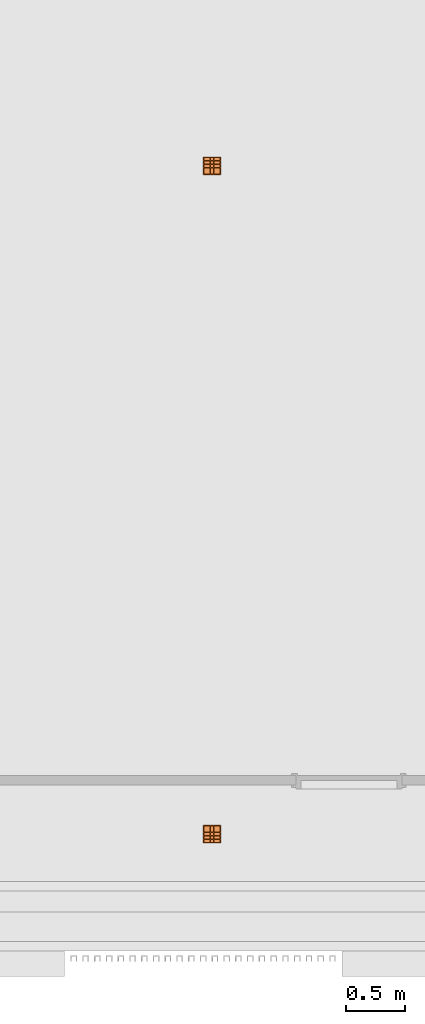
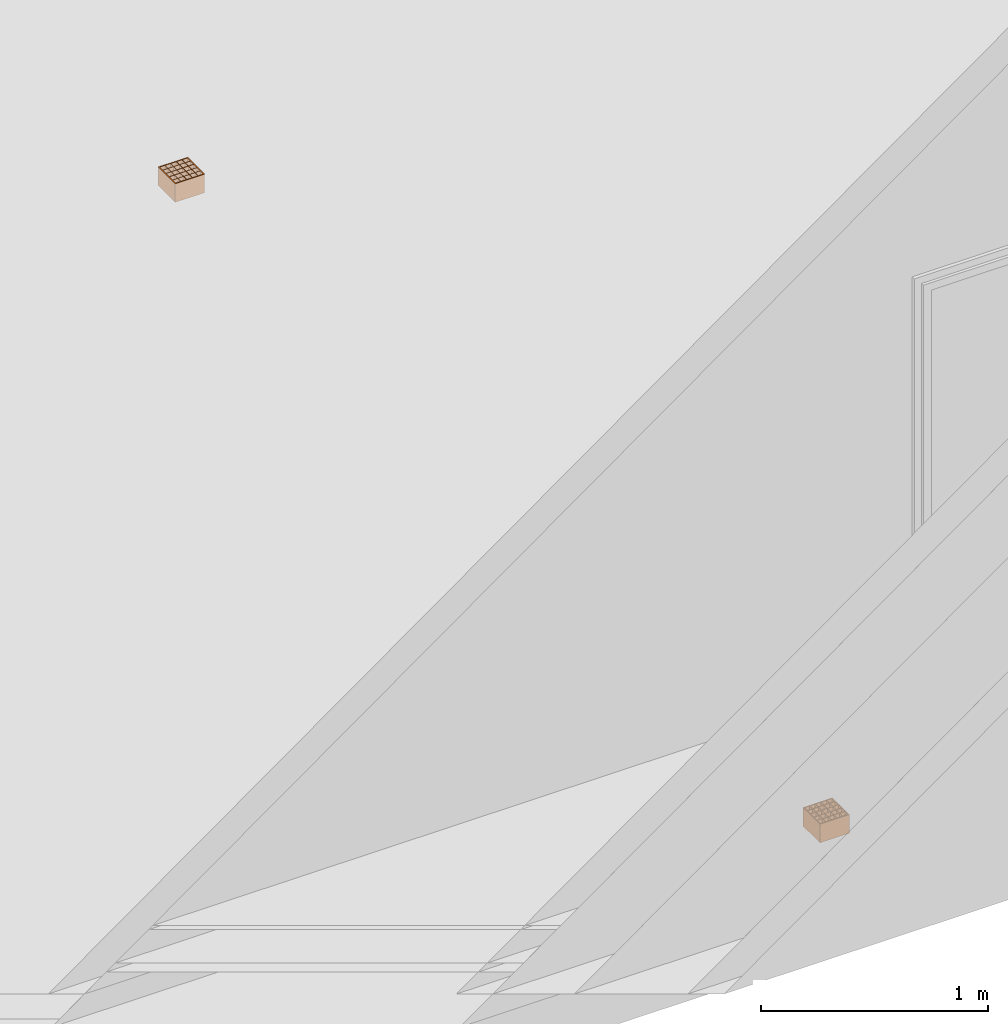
# One storey, part 81 of 100: 2 proxies.
"""IFC2X3 building model written with IfcOpenShell, lengths in millimetres."""

from ifc_helpers import new_model, entity, si_unit, converted_unit, derived_unit, money_unit, direction, frame, origin_with_axes, place, context, subcontext, project, spatial, faceted_brep, source, transform, mapped, type_object, element, save


model = new_model("IFC2X3")

# Units and contexts
model_context = context("Model", 3, precision=0.01, world=origin_with_axes(), true_north=direction((0.0, 1.0)))
body_context = subcontext(model_context, "Body", "Model", "MODEL_VIEW")
ifc_project = project(units=[si_unit("LENGTHUNIT", "METRE", prefix="MILLI"), si_unit("AREAUNIT", "SQUARE_METRE"), si_unit("VOLUMEUNIT", "CUBIC_METRE"), converted_unit("PLANEANGLEUNIT", "DEGREE", entity("IfcPlaneAngleMeasure", 0.0174532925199), si_unit("PLANEANGLEUNIT", "RADIAN"), dimensions=[0, 0, 0, 0, 0, 0, 0]), si_unit("SOLIDANGLEUNIT", "STERADIAN"), money_unit("EUR"), converted_unit("TIMEUNIT", "Year", entity("IfcTimeMeasure", 31556926.0), si_unit("TIMEUNIT", "SECOND"), dimensions=[0, 0, 1, 0, 0, 0, 0]), si_unit("MASSUNIT", "GRAM", prefix="KILO"), si_unit("THERMODYNAMICTEMPERATUREUNIT", "DEGREE_CELSIUS"), si_unit("LUMINOUSINTENSITYUNIT", "LUMEN"), si_unit("ENERGYUNIT", "JOULE", prefix="MEGA"), derived_unit("THERMALCONDUCTANCEUNIT", [(si_unit("POWERUNIT", "WATT"), 1), (si_unit("LENGTHUNIT", "METRE"), -1), (si_unit("THERMODYNAMICTEMPERATUREUNIT", "KELVIN"), -1)]), derived_unit("SPECIFICHEATCAPACITYUNIT", [(si_unit("ENERGYUNIT", "JOULE"), 1), (si_unit("MASSUNIT", "GRAM", prefix="KILO"), -1), (si_unit("THERMODYNAMICTEMPERATUREUNIT", "KELVIN"), -1)]), derived_unit("MASSDENSITYUNIT", [(si_unit("MASSUNIT", "GRAM", prefix="KILO"), 1), (si_unit("VOLUMEUNIT", "CUBIC_METRE"), -1)])], contexts=[model_context])

# Site, building, storey
site_placement = place(None, origin_with_axes())
site = spatial("IfcSite", under=ifc_project, at=site_placement, Name="Politse- ja Piirivalveameti ning Päästeameti ühishoone", CompositionType="ELEMENT")
building_placement = place(site_placement, origin_with_axes())
building = spatial("IfcBuilding", under=site, at=building_placement, Name="Politse- ja Piirivalveameti ning Päästeameti ühishoone", CompositionType="ELEMENT")
storey_placement = place(building_placement, frame((0.0, 0.0, 3800.0), z_axis=(0.0, 0.0, 1.0), x_axis=(1.0, 0.0, 0.0)))
storey = spatial("IfcBuildingStorey", under=building, at=storey_placement, Name="Teine korrus", CompositionType="ELEMENT", Elevation=3800.0)

# Proxies
building_element_proxy_type = type_object("IfcBuildingElementProxyType", Name="Grid 23", PredefinedType="NOTDEFINED")
shared_shape = source(origin_with_axes(), body_context, "Body", "Brep", [
    faceted_brep([(0.0, 0.0, 0.0), (5.0, 5.0, 0.0), (5.0, 5.0, 100.0), (0.0, 0.0, 100.0), (0.0, 150.0, 0.0), (5.0, 145.0, 0.0), (5.0, 119.5, 0.0), (5.0, 117.5, 0.0), (5.0, 90.5, 0.0), (5.0, 88.5, 0.0), (5.0, 61.5, 0.0), (5.0, 59.5, 0.0), (5.0, 32.5, 0.0), (5.0, 30.5, 0.0), (5.0, 30.5, 100.0), (5.0, 32.5, 100.0), (5.0, 59.5, 100.0), (5.0, 61.5, 100.0), (5.0, 88.5, 100.0), (5.0, 90.5, 100.0), (5.0, 117.5, 100.0), (5.0, 119.5, 100.0), (5.0, 145.0, 100.0), (0.0, 150.0, 100.0)], [[[0, 1, 2, 3]], [[0, 4, 5, 6, 7, 8, 9, 10, 11, 12, 13, 1]], [[1, 13, 14, 2]], [[3, 2, 14, 15, 16, 17, 18, 19, 20, 21, 22, 23]], [[4, 0, 3, 23]], [[5, 4, 23, 22]], [[6, 5, 22, 21]], [[7, 6, 21, 20]], [[8, 7, 20, 19]], [[9, 8, 19, 18]], [[10, 9, 18, 17]], [[11, 10, 17, 16]], [[12, 11, 16, 15]], [[13, 12, 15, 14]]]),
    faceted_brep([(150.0, 150.0, 0.0), (145.0, 145.0, 0.0), (145.0, 145.0, 100.0), (150.0, 150.0, 100.0), (150.0, 0.0, 0.0), (145.0, 5.0, 0.0), (145.0, 30.5, 0.0), (145.0, 32.5, 0.0), (145.0, 59.5, 0.0), (145.0, 61.5, 0.0), (145.0, 88.5, 0.0), (145.0, 90.5, 0.0), (145.0, 117.5, 0.0), (145.0, 119.5, 0.0), (145.0, 119.5, 100.0), (145.0, 117.5, 100.0), (145.0, 90.5, 100.0), (145.0, 88.5, 100.0), (145.0, 61.5, 100.0), (145.0, 59.5, 100.0), (145.0, 32.5, 100.0), (145.0, 30.5, 100.0), (145.0, 5.0, 100.0), (150.0, 0.0, 100.0)], [[[0, 1, 2, 3]], [[0, 4, 5, 6, 7, 8, 9, 10, 11, 12, 13, 1]], [[1, 13, 14, 2]], [[3, 2, 14, 15, 16, 17, 18, 19, 20, 21, 22, 23]], [[4, 0, 3, 23]], [[5, 4, 23, 22]], [[6, 5, 22, 21]], [[7, 6, 21, 20]], [[8, 7, 20, 19]], [[9, 8, 19, 18]], [[10, 9, 18, 17]], [[11, 10, 17, 16]], [[12, 11, 16, 15]], [[13, 12, 15, 14]]]),
    faceted_brep([(150.0, 0.0, 0.0), (145.0, 5.0, 0.0), (145.0, 5.0, 100.0), (150.0, 0.0, 100.0), (0.0, 0.0, 0.0), (5.0, 5.0, 0.0), (30.5, 5.0, 0.0), (32.5, 5.0, 0.0), (59.5, 5.0, 0.0), (61.5, 5.0, 0.0), (88.5, 5.0, 0.0), (90.5, 5.0, 0.0), (117.5, 5.0, 0.0), (119.5, 5.0, 0.0), (119.5, 5.0, 100.0), (117.5, 5.0, 100.0), (90.5, 5.0, 100.0), (88.5, 5.0, 100.0), (61.5, 5.0, 100.0), (59.5, 5.0, 100.0), (32.5, 5.0, 100.0), (30.5, 5.0, 100.0), (5.0, 5.0, 100.0), (0.0, 0.0, 100.0)], [[[0, 1, 2, 3]], [[0, 4, 5, 6, 7, 8, 9, 10, 11, 12, 13, 1]], [[1, 13, 14, 2]], [[3, 2, 14, 15, 16, 17, 18, 19, 20, 21, 22, 23]], [[4, 0, 3, 23]], [[5, 4, 23, 22]], [[6, 5, 22, 21]], [[7, 6, 21, 20]], [[8, 7, 20, 19]], [[9, 8, 19, 18]], [[10, 9, 18, 17]], [[11, 10, 17, 16]], [[12, 11, 16, 15]], [[13, 12, 15, 14]]]),
    faceted_brep([(0.0, 150.0, 0.0), (5.0, 145.0, 0.0), (5.0, 145.0, 100.0), (0.0, 150.0, 100.0), (150.0, 150.0, 0.0), (145.0, 145.0, 0.0), (119.5, 145.0, 0.0), (117.5, 145.0, 0.0), (90.5, 145.0, 0.0), (88.5, 145.0, 0.0), (61.5, 145.0, 0.0), (59.5, 145.0, 0.0), (32.5, 145.0, 0.0), (30.5, 145.0, 0.0), (30.5, 145.0, 100.0), (32.5, 145.0, 100.0), (59.5, 145.0, 100.0), (61.5, 145.0, 100.0), (88.5, 145.0, 100.0), (90.5, 145.0, 100.0), (117.5, 145.0, 100.0), (119.5, 145.0, 100.0), (145.0, 145.0, 100.0), (150.0, 150.0, 100.0)], [[[0, 1, 2, 3]], [[0, 4, 5, 6, 7, 8, 9, 10, 11, 12, 13, 1]], [[1, 13, 14, 2]], [[3, 2, 14, 15, 16, 17, 18, 19, 20, 21, 22, 23]], [[4, 0, 3, 23]], [[5, 4, 23, 22]], [[6, 5, 22, 21]], [[7, 6, 21, 20]], [[8, 7, 20, 19]], [[9, 8, 19, 18]], [[10, 9, 18, 17]], [[11, 10, 17, 16]], [[12, 11, 16, 15]], [[13, 12, 15, 14]]]),
    faceted_brep([(30.5, 5.0, 0.0), (32.5, 5.0, 0.0), (32.5, 5.0, 100.0), (30.5, 5.0, 100.0), (30.5, 30.5, 0.0), (30.5, 32.5, 0.0), (30.5, 59.5, 0.0), (30.5, 61.5, 0.0), (30.5, 88.5, 0.0), (30.5, 90.5, 0.0), (30.5, 117.5, 0.0), (30.5, 119.5, 0.0), (30.5, 145.0, 0.0), (32.5, 145.0, 0.0), (32.5, 119.5, 0.0), (32.5, 117.5, 0.0), (32.5, 90.5, 0.0), (32.5, 88.5, 0.0), (32.5, 61.5, 0.0), (32.5, 59.5, 0.0), (32.5, 32.5, 0.0), (32.5, 30.5, 0.0), (32.5, 30.5, 100.0), (32.5, 32.5, 100.0), (32.5, 59.5, 100.0), (32.5, 61.5, 100.0), (32.5, 88.5, 100.0), (32.5, 90.5, 100.0), (32.5, 117.5, 100.0), (32.5, 119.5, 100.0), (32.5, 145.0, 100.0), (30.5, 145.0, 100.0), (30.5, 119.5, 100.0), (30.5, 117.5, 100.0), (30.5, 90.5, 100.0), (30.5, 88.5, 100.0), (30.5, 61.5, 100.0), (30.5, 59.5, 100.0), (30.5, 32.5, 100.0), (30.5, 30.5, 100.0)], [[[0, 1, 2, 3]], [[0, 4, 5, 6, 7, 8, 9, 10, 11, 12, 13, 14, 15, 16, 17, 18, 19, 20, 21, 1]], [[1, 21, 22, 2]], [[3, 2, 22, 23, 24, 25, 26, 27, 28, 29, 30, 31, 32, 33, 34, 35, 36, 37, 38, 39]], [[4, 0, 3, 39]], [[5, 4, 39, 38]], [[6, 5, 38, 37]], [[7, 6, 37, 36]], [[8, 7, 36, 35]], [[9, 8, 35, 34]], [[10, 9, 34, 33]], [[11, 10, 33, 32]], [[12, 11, 32, 31]], [[13, 12, 31, 30]], [[14, 13, 30, 29]], [[15, 14, 29, 28]], [[16, 15, 28, 27]], [[17, 16, 27, 26]], [[18, 17, 26, 25]], [[19, 18, 25, 24]], [[20, 19, 24, 23]], [[21, 20, 23, 22]]]),
    faceted_brep([(59.5, 5.0, 0.0), (61.5, 5.0, 0.0), (61.5, 5.0, 100.0), (59.5, 5.0, 100.0), (59.5, 30.5, 0.0), (59.5, 32.5, 0.0), (59.5, 59.5, 0.0), (59.5, 61.5, 0.0), (59.5, 88.5, 0.0), (59.5, 90.5, 0.0), (59.5, 117.5, 0.0), (59.5, 119.5, 0.0), (59.5, 145.0, 0.0), (61.5, 145.0, 0.0), (61.5, 119.5, 0.0), (61.5, 117.5, 0.0), (61.5, 90.5, 0.0), (61.5, 88.5, 0.0), (61.5, 61.5, 0.0), (61.5, 59.5, 0.0), (61.5, 32.5, 0.0), (61.5, 30.5, 0.0), (61.5, 30.5, 100.0), (61.5, 32.5, 100.0), (61.5, 59.5, 100.0), (61.5, 61.5, 100.0), (61.5, 88.5, 100.0), (61.5, 90.5, 100.0), (61.5, 117.5, 100.0), (61.5, 119.5, 100.0), (61.5, 145.0, 100.0), (59.5, 145.0, 100.0), (59.5, 119.5, 100.0), (59.5, 117.5, 100.0), (59.5, 90.5, 100.0), (59.5, 88.5, 100.0), (59.5, 61.5, 100.0), (59.5, 59.5, 100.0), (59.5, 32.5, 100.0), (59.5, 30.5, 100.0)], [[[0, 1, 2, 3]], [[0, 4, 5, 6, 7, 8, 9, 10, 11, 12, 13, 14, 15, 16, 17, 18, 19, 20, 21, 1]], [[1, 21, 22, 2]], [[3, 2, 22, 23, 24, 25, 26, 27, 28, 29, 30, 31, 32, 33, 34, 35, 36, 37, 38, 39]], [[4, 0, 3, 39]], [[5, 4, 39, 38]], [[6, 5, 38, 37]], [[7, 6, 37, 36]], [[8, 7, 36, 35]], [[9, 8, 35, 34]], [[10, 9, 34, 33]], [[11, 10, 33, 32]], [[12, 11, 32, 31]], [[13, 12, 31, 30]], [[14, 13, 30, 29]], [[15, 14, 29, 28]], [[16, 15, 28, 27]], [[17, 16, 27, 26]], [[18, 17, 26, 25]], [[19, 18, 25, 24]], [[20, 19, 24, 23]], [[21, 20, 23, 22]]]),
    faceted_brep([(88.5, 5.0, 0.0), (90.5, 5.0, 0.0), (90.5, 5.0, 100.0), (88.5, 5.0, 100.0), (88.5, 30.5, 0.0), (88.5, 32.5, 0.0), (88.5, 59.5, 0.0), (88.5, 61.5, 0.0), (88.5, 88.5, 0.0), (88.5, 90.5, 0.0), (88.5, 117.5, 0.0), (88.5, 119.5, 0.0), (88.5, 145.0, 0.0), (90.5, 145.0, 0.0), (90.5, 119.5, 0.0), (90.5, 117.5, 0.0), (90.5, 90.5, 0.0), (90.5, 88.5, 0.0), (90.5, 61.5, 0.0), (90.5, 59.5, 0.0), (90.5, 32.5, 0.0), (90.5, 30.5, 0.0), (90.5, 30.5, 100.0), (90.5, 32.5, 100.0), (90.5, 59.5, 100.0), (90.5, 61.5, 100.0), (90.5, 88.5, 100.0), (90.5, 90.5, 100.0), (90.5, 117.5, 100.0), (90.5, 119.5, 100.0), (90.5, 145.0, 100.0), (88.5, 145.0, 100.0), (88.5, 119.5, 100.0), (88.5, 117.5, 100.0), (88.5, 90.5, 100.0), (88.5, 88.5, 100.0), (88.5, 61.5, 100.0), (88.5, 59.5, 100.0), (88.5, 32.5, 100.0), (88.5, 30.5, 100.0)], [[[0, 1, 2, 3]], [[0, 4, 5, 6, 7, 8, 9, 10, 11, 12, 13, 14, 15, 16, 17, 18, 19, 20, 21, 1]], [[1, 21, 22, 2]], [[3, 2, 22, 23, 24, 25, 26, 27, 28, 29, 30, 31, 32, 33, 34, 35, 36, 37, 38, 39]], [[4, 0, 3, 39]], [[5, 4, 39, 38]], [[6, 5, 38, 37]], [[7, 6, 37, 36]], [[8, 7, 36, 35]], [[9, 8, 35, 34]], [[10, 9, 34, 33]], [[11, 10, 33, 32]], [[12, 11, 32, 31]], [[13, 12, 31, 30]], [[14, 13, 30, 29]], [[15, 14, 29, 28]], [[16, 15, 28, 27]], [[17, 16, 27, 26]], [[18, 17, 26, 25]], [[19, 18, 25, 24]], [[20, 19, 24, 23]], [[21, 20, 23, 22]]]),
    faceted_brep([(117.5, 5.0, 0.0), (119.5, 5.0, 0.0), (119.5, 5.0, 100.0), (117.5, 5.0, 100.0), (117.5, 30.5, 0.0), (117.5, 32.5, 0.0), (117.5, 59.5, 0.0), (117.5, 61.5, 0.0), (117.5, 88.5, 0.0), (117.5, 90.5, 0.0), (117.5, 117.5, 0.0), (117.5, 119.5, 0.0), (117.5, 145.0, 0.0), (119.5, 145.0, 0.0), (119.5, 119.5, 0.0), (119.5, 117.5, 0.0), (119.5, 90.5, 0.0), (119.5, 88.5, 0.0), (119.5, 61.5, 0.0), (119.5, 59.5, 0.0), (119.5, 32.5, 0.0), (119.5, 30.5, 0.0), (119.5, 30.5, 100.0), (119.5, 32.5, 100.0), (119.5, 59.5, 100.0), (119.5, 61.5, 100.0), (119.5, 88.5, 100.0), (119.5, 90.5, 100.0), (119.5, 117.5, 100.0), (119.5, 119.5, 100.0), (119.5, 145.0, 100.0), (117.5, 145.0, 100.0), (117.5, 119.5, 100.0), (117.5, 117.5, 100.0), (117.5, 90.5, 100.0), (117.5, 88.5, 100.0), (117.5, 61.5, 100.0), (117.5, 59.5, 100.0), (117.5, 32.5, 100.0), (117.5, 30.5, 100.0)], [[[0, 1, 2, 3]], [[0, 4, 5, 6, 7, 8, 9, 10, 11, 12, 13, 14, 15, 16, 17, 18, 19, 20, 21, 1]], [[1, 21, 22, 2]], [[3, 2, 22, 23, 24, 25, 26, 27, 28, 29, 30, 31, 32, 33, 34, 35, 36, 37, 38, 39]], [[4, 0, 3, 39]], [[5, 4, 39, 38]], [[6, 5, 38, 37]], [[7, 6, 37, 36]], [[8, 7, 36, 35]], [[9, 8, 35, 34]], [[10, 9, 34, 33]], [[11, 10, 33, 32]], [[12, 11, 32, 31]], [[13, 12, 31, 30]], [[14, 13, 30, 29]], [[15, 14, 29, 28]], [[16, 15, 28, 27]], [[17, 16, 27, 26]], [[18, 17, 26, 25]], [[19, 18, 25, 24]], [[20, 19, 24, 23]], [[21, 20, 23, 22]]]),
    faceted_brep([(30.5, 30.5, 0.0), (30.5, 32.5, 0.0), (30.5, 32.5, 100.0), (30.5, 30.5, 100.0), (5.0, 30.5, 0.0), (5.0, 32.5, 0.0), (5.0, 32.5, 100.0), (5.0, 30.5, 100.0)], [[[0, 1, 2, 3]], [[0, 4, 5, 1]], [[1, 5, 6, 2]], [[3, 2, 6, 7]], [[4, 0, 3, 7]], [[5, 4, 7, 6]]]),
    faceted_brep([(30.5, 59.5, 0.0), (30.5, 61.5, 0.0), (30.5, 61.5, 100.0), (30.5, 59.5, 100.0), (5.0, 59.5, 0.0), (5.0, 61.5, 0.0), (5.0, 61.5, 100.0), (5.0, 59.5, 100.0)], [[[0, 1, 2, 3]], [[0, 4, 5, 1]], [[1, 5, 6, 2]], [[3, 2, 6, 7]], [[4, 0, 3, 7]], [[5, 4, 7, 6]]]),
    faceted_brep([(30.5, 88.5, 0.0), (30.5, 90.5, 0.0), (30.5, 90.5, 100.0), (30.5, 88.5, 100.0), (5.0, 88.5, 0.0), (5.0, 90.5, 0.0), (5.0, 90.5, 100.0), (5.0, 88.5, 100.0)], [[[0, 1, 2, 3]], [[0, 4, 5, 1]], [[1, 5, 6, 2]], [[3, 2, 6, 7]], [[4, 0, 3, 7]], [[5, 4, 7, 6]]]),
    faceted_brep([(30.5, 117.5, 0.0), (30.5, 119.5, 0.0), (30.5, 119.5, 100.0), (30.5, 117.5, 100.0), (5.0, 117.5, 0.0), (5.0, 119.5, 0.0), (5.0, 119.5, 100.0), (5.0, 117.5, 100.0)], [[[0, 1, 2, 3]], [[0, 4, 5, 1]], [[1, 5, 6, 2]], [[3, 2, 6, 7]], [[4, 0, 3, 7]], [[5, 4, 7, 6]]]),
    faceted_brep([(59.5, 30.5, 0.0), (59.5, 32.5, 0.0), (59.5, 32.5, 100.0), (59.5, 30.5, 100.0), (32.5, 30.5, 0.0), (32.5, 32.5, 0.0), (32.5, 32.5, 100.0), (32.5, 30.5, 100.0)], [[[0, 1, 2, 3]], [[0, 4, 5, 1]], [[1, 5, 6, 2]], [[3, 2, 6, 7]], [[4, 0, 3, 7]], [[5, 4, 7, 6]]]),
    faceted_brep([(59.5, 59.5, 0.0), (59.5, 61.5, 0.0), (59.5, 61.5, 100.0), (59.5, 59.5, 100.0), (32.5, 59.5, 0.0), (32.5, 61.5, 0.0), (32.5, 61.5, 100.0), (32.5, 59.5, 100.0)], [[[0, 1, 2, 3]], [[0, 4, 5, 1]], [[1, 5, 6, 2]], [[3, 2, 6, 7]], [[4, 0, 3, 7]], [[5, 4, 7, 6]]]),
    faceted_brep([(59.5, 88.5, 0.0), (59.5, 90.5, 0.0), (59.5, 90.5, 100.0), (59.5, 88.5, 100.0), (32.5, 88.5, 0.0), (32.5, 90.5, 0.0), (32.5, 90.5, 100.0), (32.5, 88.5, 100.0)], [[[0, 1, 2, 3]], [[0, 4, 5, 1]], [[1, 5, 6, 2]], [[3, 2, 6, 7]], [[4, 0, 3, 7]], [[5, 4, 7, 6]]]),
    faceted_brep([(59.5, 117.5, 0.0), (59.5, 119.5, 0.0), (59.5, 119.5, 100.0), (59.5, 117.5, 100.0), (32.5, 117.5, 0.0), (32.5, 119.5, 0.0), (32.5, 119.5, 100.0), (32.5, 117.5, 100.0)], [[[0, 1, 2, 3]], [[0, 4, 5, 1]], [[1, 5, 6, 2]], [[3, 2, 6, 7]], [[4, 0, 3, 7]], [[5, 4, 7, 6]]]),
    faceted_brep([(88.5, 30.5, 0.0), (88.5, 32.5, 0.0), (88.5, 32.5, 100.0), (88.5, 30.5, 100.0), (61.5, 30.5, 0.0), (61.5, 32.5, 0.0), (61.5, 32.5, 100.0), (61.5, 30.5, 100.0)], [[[0, 1, 2, 3]], [[0, 4, 5, 1]], [[1, 5, 6, 2]], [[3, 2, 6, 7]], [[4, 0, 3, 7]], [[5, 4, 7, 6]]]),
    faceted_brep([(88.5, 59.5, 0.0), (88.5, 61.5, 0.0), (88.5, 61.5, 100.0), (88.5, 59.5, 100.0), (61.5, 59.5, 0.0), (61.5, 61.5, 0.0), (61.5, 61.5, 100.0), (61.5, 59.5, 100.0)], [[[0, 1, 2, 3]], [[0, 4, 5, 1]], [[1, 5, 6, 2]], [[3, 2, 6, 7]], [[4, 0, 3, 7]], [[5, 4, 7, 6]]]),
    faceted_brep([(88.5, 88.5, 0.0), (88.5, 90.5, 0.0), (88.5, 90.5, 100.0), (88.5, 88.5, 100.0), (61.5, 88.5, 0.0), (61.5, 90.5, 0.0), (61.5, 90.5, 100.0), (61.5, 88.5, 100.0)], [[[0, 1, 2, 3]], [[0, 4, 5, 1]], [[1, 5, 6, 2]], [[3, 2, 6, 7]], [[4, 0, 3, 7]], [[5, 4, 7, 6]]]),
    faceted_brep([(88.5, 117.5, 0.0), (88.5, 119.5, 0.0), (88.5, 119.5, 100.0), (88.5, 117.5, 100.0), (61.5, 117.5, 0.0), (61.5, 119.5, 0.0), (61.5, 119.5, 100.0), (61.5, 117.5, 100.0)], [[[0, 1, 2, 3]], [[0, 4, 5, 1]], [[1, 5, 6, 2]], [[3, 2, 6, 7]], [[4, 0, 3, 7]], [[5, 4, 7, 6]]]),
    faceted_brep([(117.5, 30.5, 0.0), (117.5, 32.5, 0.0), (117.5, 32.5, 100.0), (117.5, 30.5, 100.0), (90.5, 30.5, 0.0), (90.5, 32.5, 0.0), (90.5, 32.5, 100.0), (90.5, 30.5, 100.0)], [[[0, 1, 2, 3]], [[0, 4, 5, 1]], [[1, 5, 6, 2]], [[3, 2, 6, 7]], [[4, 0, 3, 7]], [[5, 4, 7, 6]]]),
    faceted_brep([(117.5, 59.5, 0.0), (117.5, 61.5, 0.0), (117.5, 61.5, 100.0), (117.5, 59.5, 100.0), (90.5, 59.5, 0.0), (90.5, 61.5, 0.0), (90.5, 61.5, 100.0), (90.5, 59.5, 100.0)], [[[0, 1, 2, 3]], [[0, 4, 5, 1]], [[1, 5, 6, 2]], [[3, 2, 6, 7]], [[4, 0, 3, 7]], [[5, 4, 7, 6]]]),
    faceted_brep([(117.5, 88.5, 0.0), (117.5, 90.5, 0.0), (117.5, 90.5, 100.0), (117.5, 88.5, 100.0), (90.5, 88.5, 0.0), (90.5, 90.5, 0.0), (90.5, 90.5, 100.0), (90.5, 88.5, 100.0)], [[[0, 1, 2, 3]], [[0, 4, 5, 1]], [[1, 5, 6, 2]], [[3, 2, 6, 7]], [[4, 0, 3, 7]], [[5, 4, 7, 6]]]),
    faceted_brep([(117.5, 117.5, 0.0), (117.5, 119.5, 0.0), (117.5, 119.5, 100.0), (117.5, 117.5, 100.0), (90.5, 117.5, 0.0), (90.5, 119.5, 0.0), (90.5, 119.5, 100.0), (90.5, 117.5, 100.0)], [[[0, 1, 2, 3]], [[0, 4, 5, 1]], [[1, 5, 6, 2]], [[3, 2, 6, 7]], [[4, 0, 3, 7]], [[5, 4, 7, 6]]]),
    faceted_brep([(145.0, 30.5, 0.0), (145.0, 32.5, 0.0), (145.0, 32.5, 100.0), (145.0, 30.5, 100.0), (119.5, 30.5, 0.0), (119.5, 32.5, 0.0), (119.5, 32.5, 100.0), (119.5, 30.5, 100.0)], [[[0, 1, 2, 3]], [[0, 4, 5, 1]], [[1, 5, 6, 2]], [[3, 2, 6, 7]], [[4, 0, 3, 7]], [[5, 4, 7, 6]]]),
    faceted_brep([(145.0, 59.5, 0.0), (145.0, 61.5, 0.0), (145.0, 61.5, 100.0), (145.0, 59.5, 100.0), (119.5, 59.5, 0.0), (119.5, 61.5, 0.0), (119.5, 61.5, 100.0), (119.5, 59.5, 100.0)], [[[0, 1, 2, 3]], [[0, 4, 5, 1]], [[1, 5, 6, 2]], [[3, 2, 6, 7]], [[4, 0, 3, 7]], [[5, 4, 7, 6]]]),
    faceted_brep([(145.0, 88.5, 0.0), (145.0, 90.5, 0.0), (145.0, 90.5, 100.0), (145.0, 88.5, 100.0), (119.5, 88.5, 0.0), (119.5, 90.5, 0.0), (119.5, 90.5, 100.0), (119.5, 88.5, 100.0)], [[[0, 1, 2, 3]], [[0, 4, 5, 1]], [[1, 5, 6, 2]], [[3, 2, 6, 7]], [[4, 0, 3, 7]], [[5, 4, 7, 6]]]),
    faceted_brep([(145.0, 117.5, 0.0), (145.0, 119.5, 0.0), (145.0, 119.5, 100.0), (145.0, 117.5, 100.0), (119.5, 117.5, 0.0), (119.5, 119.5, 0.0), (119.5, 119.5, 100.0), (119.5, 117.5, 100.0)], [[[0, 1, 2, 3]], [[0, 4, 5, 1]], [[1, 5, 6, 2]], [[3, 2, 6, 7]], [[4, 0, 3, 7]], [[5, 4, 7, 6]]]),
    faceted_brep([(5.0, 5.0, 43.65), (30.5, 5.0, 43.65), (30.5, 5.0, 56.35), (5.0, 5.0, 56.35), (5.0, 30.5, 43.65), (30.5, 30.5, 43.65), (30.5, 30.5, 56.35), (5.0, 30.5, 56.35)], [[[0, 1, 2, 3]], [[0, 4, 5, 1]], [[1, 5, 6, 2]], [[3, 2, 6, 7]], [[4, 0, 3, 7]], [[5, 4, 7, 6]]]),
    faceted_brep([(5.0, 32.5, 43.65), (30.5, 32.5, 43.65), (30.5, 32.5, 56.35), (5.0, 32.5, 56.35), (5.0, 59.5, 43.65), (30.5, 59.5, 43.65), (30.5, 59.5, 56.35), (5.0, 59.5, 56.35)], [[[0, 1, 2, 3]], [[0, 4, 5, 1]], [[1, 5, 6, 2]], [[3, 2, 6, 7]], [[4, 0, 3, 7]], [[5, 4, 7, 6]]]),
    faceted_brep([(5.0, 61.5, 43.65), (30.5, 61.5, 43.65), (30.5, 61.5, 56.35), (5.0, 61.5, 56.35), (5.0, 88.5, 43.65), (30.5, 88.5, 43.65), (30.5, 88.5, 56.35), (5.0, 88.5, 56.35)], [[[0, 1, 2, 3]], [[0, 4, 5, 1]], [[1, 5, 6, 2]], [[3, 2, 6, 7]], [[4, 0, 3, 7]], [[5, 4, 7, 6]]]),
    faceted_brep([(5.0, 90.5, 43.65), (30.5, 90.5, 43.65), (30.5, 90.5, 56.35), (5.0, 90.5, 56.35), (5.0, 117.5, 43.65), (30.5, 117.5, 43.65), (30.5, 117.5, 56.35), (5.0, 117.5, 56.35)], [[[0, 1, 2, 3]], [[0, 4, 5, 1]], [[1, 5, 6, 2]], [[3, 2, 6, 7]], [[4, 0, 3, 7]], [[5, 4, 7, 6]]]),
    faceted_brep([(5.0, 119.5, 43.65), (30.5, 119.5, 43.65), (30.5, 119.5, 56.35), (5.0, 119.5, 56.35), (5.0, 145.0, 43.65), (30.5, 145.0, 43.65), (30.5, 145.0, 56.35), (5.0, 145.0, 56.35)], [[[0, 1, 2, 3]], [[0, 4, 5, 1]], [[1, 5, 6, 2]], [[3, 2, 6, 7]], [[4, 0, 3, 7]], [[5, 4, 7, 6]]]),
    faceted_brep([(32.5, 5.0, 43.65), (59.5, 5.0, 43.65), (59.5, 5.0, 56.35), (32.5, 5.0, 56.35), (32.5, 30.5, 43.65), (59.5, 30.5, 43.65), (59.5, 30.5, 56.35), (32.5, 30.5, 56.35)], [[[0, 1, 2, 3]], [[0, 4, 5, 1]], [[1, 5, 6, 2]], [[3, 2, 6, 7]], [[4, 0, 3, 7]], [[5, 4, 7, 6]]]),
    faceted_brep([(32.5, 32.5, 43.65), (59.5, 32.5, 43.65), (59.5, 32.5, 56.35), (32.5, 32.5, 56.35), (32.5, 59.5, 43.65), (59.5, 59.5, 43.65), (59.5, 59.5, 56.35), (32.5, 59.5, 56.35)], [[[0, 1, 2, 3]], [[0, 4, 5, 1]], [[1, 5, 6, 2]], [[3, 2, 6, 7]], [[4, 0, 3, 7]], [[5, 4, 7, 6]]]),
    faceted_brep([(32.5, 61.5, 43.65), (59.5, 61.5, 43.65), (59.5, 61.5, 56.35), (32.5, 61.5, 56.35), (32.5, 88.5, 43.65), (59.5, 88.5, 43.65), (59.5, 88.5, 56.35), (32.5, 88.5, 56.35)], [[[0, 1, 2, 3]], [[0, 4, 5, 1]], [[1, 5, 6, 2]], [[3, 2, 6, 7]], [[4, 0, 3, 7]], [[5, 4, 7, 6]]]),
    faceted_brep([(32.5, 90.5, 43.65), (59.5, 90.5, 43.65), (59.5, 90.5, 56.35), (32.5, 90.5, 56.35), (32.5, 117.5, 43.65), (59.5, 117.5, 43.65), (59.5, 117.5, 56.35), (32.5, 117.5, 56.35)], [[[0, 1, 2, 3]], [[0, 4, 5, 1]], [[1, 5, 6, 2]], [[3, 2, 6, 7]], [[4, 0, 3, 7]], [[5, 4, 7, 6]]]),
    faceted_brep([(32.5, 119.5, 43.65), (59.5, 119.5, 43.65), (59.5, 119.5, 56.35), (32.5, 119.5, 56.35), (32.5, 145.0, 43.65), (59.5, 145.0, 43.65), (59.5, 145.0, 56.35), (32.5, 145.0, 56.35)], [[[0, 1, 2, 3]], [[0, 4, 5, 1]], [[1, 5, 6, 2]], [[3, 2, 6, 7]], [[4, 0, 3, 7]], [[5, 4, 7, 6]]]),
    faceted_brep([(61.5, 5.0, 43.65), (88.5, 5.0, 43.65), (88.5, 5.0, 56.35), (61.5, 5.0, 56.35), (61.5, 30.5, 43.65), (88.5, 30.5, 43.65), (88.5, 30.5, 56.35), (61.5, 30.5, 56.35)], [[[0, 1, 2, 3]], [[0, 4, 5, 1]], [[1, 5, 6, 2]], [[3, 2, 6, 7]], [[4, 0, 3, 7]], [[5, 4, 7, 6]]]),
    faceted_brep([(61.5, 32.5, 43.65), (88.5, 32.5, 43.65), (88.5, 32.5, 56.35), (61.5, 32.5, 56.35), (61.5, 59.5, 43.65), (88.5, 59.5, 43.65), (88.5, 59.5, 56.35), (61.5, 59.5, 56.35)], [[[0, 1, 2, 3]], [[0, 4, 5, 1]], [[1, 5, 6, 2]], [[3, 2, 6, 7]], [[4, 0, 3, 7]], [[5, 4, 7, 6]]]),
    faceted_brep([(61.5, 61.5, 43.65), (88.5, 61.5, 43.65), (88.5, 61.5, 56.35), (61.5, 61.5, 56.35), (61.5, 88.5, 43.65), (88.5, 88.5, 43.65), (88.5, 88.5, 56.35), (61.5, 88.5, 56.35)], [[[0, 1, 2, 3]], [[0, 4, 5, 1]], [[1, 5, 6, 2]], [[3, 2, 6, 7]], [[4, 0, 3, 7]], [[5, 4, 7, 6]]]),
    faceted_brep([(61.5, 90.5, 43.65), (88.5, 90.5, 43.65), (88.5, 90.5, 56.35), (61.5, 90.5, 56.35), (61.5, 117.5, 43.65), (88.5, 117.5, 43.65), (88.5, 117.5, 56.35), (61.5, 117.5, 56.35)], [[[0, 1, 2, 3]], [[0, 4, 5, 1]], [[1, 5, 6, 2]], [[3, 2, 6, 7]], [[4, 0, 3, 7]], [[5, 4, 7, 6]]]),
    faceted_brep([(61.5, 119.5, 43.65), (88.5, 119.5, 43.65), (88.5, 119.5, 56.35), (61.5, 119.5, 56.35), (61.5, 145.0, 43.65), (88.5, 145.0, 43.65), (88.5, 145.0, 56.35), (61.5, 145.0, 56.35)], [[[0, 1, 2, 3]], [[0, 4, 5, 1]], [[1, 5, 6, 2]], [[3, 2, 6, 7]], [[4, 0, 3, 7]], [[5, 4, 7, 6]]]),
    faceted_brep([(90.5, 5.0, 43.65), (117.5, 5.0, 43.65), (117.5, 5.0, 56.35), (90.5, 5.0, 56.35), (90.5, 30.5, 43.65), (117.5, 30.5, 43.65), (117.5, 30.5, 56.35), (90.5, 30.5, 56.35)], [[[0, 1, 2, 3]], [[0, 4, 5, 1]], [[1, 5, 6, 2]], [[3, 2, 6, 7]], [[4, 0, 3, 7]], [[5, 4, 7, 6]]]),
    faceted_brep([(90.5, 32.5, 43.65), (117.5, 32.5, 43.65), (117.5, 32.5, 56.35), (90.5, 32.5, 56.35), (90.5, 59.5, 43.65), (117.5, 59.5, 43.65), (117.5, 59.5, 56.35), (90.5, 59.5, 56.35)], [[[0, 1, 2, 3]], [[0, 4, 5, 1]], [[1, 5, 6, 2]], [[3, 2, 6, 7]], [[4, 0, 3, 7]], [[5, 4, 7, 6]]]),
    faceted_brep([(90.5, 61.5, 43.65), (117.5, 61.5, 43.65), (117.5, 61.5, 56.35), (90.5, 61.5, 56.35), (90.5, 88.5, 43.65), (117.5, 88.5, 43.65), (117.5, 88.5, 56.35), (90.5, 88.5, 56.35)], [[[0, 1, 2, 3]], [[0, 4, 5, 1]], [[1, 5, 6, 2]], [[3, 2, 6, 7]], [[4, 0, 3, 7]], [[5, 4, 7, 6]]]),
    faceted_brep([(90.5, 90.5, 43.65), (117.5, 90.5, 43.65), (117.5, 90.5, 56.35), (90.5, 90.5, 56.35), (90.5, 117.5, 43.65), (117.5, 117.5, 43.65), (117.5, 117.5, 56.35), (90.5, 117.5, 56.35)], [[[0, 1, 2, 3]], [[0, 4, 5, 1]], [[1, 5, 6, 2]], [[3, 2, 6, 7]], [[4, 0, 3, 7]], [[5, 4, 7, 6]]]),
    faceted_brep([(90.5, 119.5, 43.65), (117.5, 119.5, 43.65), (117.5, 119.5, 56.35), (90.5, 119.5, 56.35), (90.5, 145.0, 43.65), (117.5, 145.0, 43.65), (117.5, 145.0, 56.35), (90.5, 145.0, 56.35)], [[[0, 1, 2, 3]], [[0, 4, 5, 1]], [[1, 5, 6, 2]], [[3, 2, 6, 7]], [[4, 0, 3, 7]], [[5, 4, 7, 6]]]),
    faceted_brep([(119.5, 5.0, 43.65), (145.0, 5.0, 43.65), (145.0, 5.0, 56.35), (119.5, 5.0, 56.35), (119.5, 30.5, 43.65), (145.0, 30.5, 43.65), (145.0, 30.5, 56.35), (119.5, 30.5, 56.35)], [[[0, 1, 2, 3]], [[0, 4, 5, 1]], [[1, 5, 6, 2]], [[3, 2, 6, 7]], [[4, 0, 3, 7]], [[5, 4, 7, 6]]]),
    faceted_brep([(119.5, 32.5, 43.65), (145.0, 32.5, 43.65), (145.0, 32.5, 56.35), (119.5, 32.5, 56.35), (119.5, 59.5, 43.65), (145.0, 59.5, 43.65), (145.0, 59.5, 56.35), (119.5, 59.5, 56.35)], [[[0, 1, 2, 3]], [[0, 4, 5, 1]], [[1, 5, 6, 2]], [[3, 2, 6, 7]], [[4, 0, 3, 7]], [[5, 4, 7, 6]]]),
    faceted_brep([(119.5, 61.5, 43.65), (145.0, 61.5, 43.65), (145.0, 61.5, 56.35), (119.5, 61.5, 56.35), (119.5, 88.5, 43.65), (145.0, 88.5, 43.65), (145.0, 88.5, 56.35), (119.5, 88.5, 56.35)], [[[0, 1, 2, 3]], [[0, 4, 5, 1]], [[1, 5, 6, 2]], [[3, 2, 6, 7]], [[4, 0, 3, 7]], [[5, 4, 7, 6]]]),
    faceted_brep([(119.5, 90.5, 43.65), (145.0, 90.5, 43.65), (145.0, 90.5, 56.35), (119.5, 90.5, 56.35), (119.5, 117.5, 43.65), (145.0, 117.5, 43.65), (145.0, 117.5, 56.35), (119.5, 117.5, 56.35)], [[[0, 1, 2, 3]], [[0, 4, 5, 1]], [[1, 5, 6, 2]], [[3, 2, 6, 7]], [[4, 0, 3, 7]], [[5, 4, 7, 6]]]),
    faceted_brep([(119.5, 119.5, 43.65), (145.0, 119.5, 43.65), (145.0, 119.5, 56.35), (119.5, 119.5, 56.35), (119.5, 145.0, 43.65), (145.0, 145.0, 43.65), (145.0, 145.0, 56.35), (119.5, 145.0, 56.35)], [[[0, 1, 2, 3]], [[0, 4, 5, 1]], [[1, 5, 6, 2]], [[3, 2, 6, 7]], [[4, 0, 3, 7]], [[5, 4, 7, 6]]]),
])
for number, where, z_axis, x_axis, name in (
    (1, (22579.8944911, 6091.64951543, -100.0), (0.0, 0.0, 1.0), (1.0, 0.0, 0.0), "Trapp (210)"),
    (2, (22579.8944911, 408.447289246, -100.0), (0.0, 0.0, 1.0), (1.0, 0.0, 0.0), "Trapp (210)"),
):
    element("IfcBuildingElementProxy", number, at=place(storey_placement, frame(where, z_axis=z_axis, x_axis=x_axis)), inside=storey, type_object=building_element_proxy_type, Name=name, context=body_context, shape_type="MappedRepresentation", body=[
        mapped(shared_shape, transform((0.0, 0.0, 0.0))),
    ])

save(model, "model.ifc")
